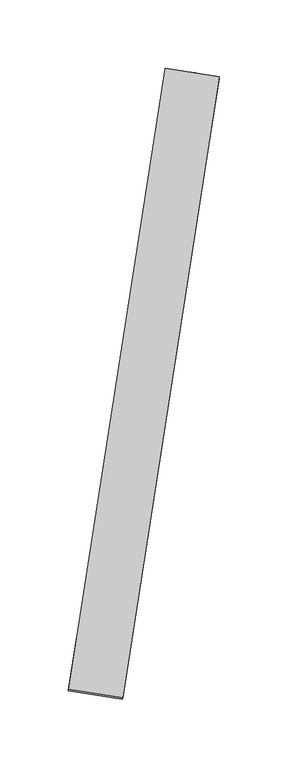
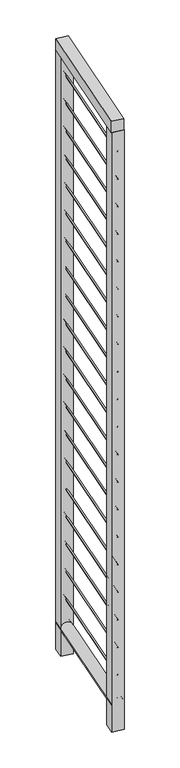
"""IFC4 building model written with IfcOpenShell, lengths in millimetres: railing geometry, Reja acceso."""

from ifc_helpers import new_model, si_unit, point, frame, origin, origin_2d, place, context, project, spatial, polyline, circle_curve, trimmed, segment, composite_curve, outline, extrude, source, transform, mapped, element, save


def railing_81306c8a(model_context):
    return source(origin(), model_context, "Body", "SweptSolid", [
        extrude(outline(polyline([(-42461.7816066, -64352.8523693), (-42501.304379, -64346.6919741), (-42430.4598345, -63892.1800925), (-42390.9370622, -63898.3404877), (-42461.7816066, -64352.8523693)])), frame((0.0, 0.0, 2025.385397), z_axis=(0.0, 0.0, 1.0), x_axis=(1.0, 0.0, 0.0)), (0.0, 0.0, 1.0), 40.0),
        extrude(outline(composite_curve([segment(trimmed(circle_curve(origin_2d(), 2.5), [point((-2.5, 0.0))], [point((2.5, 0.0))], False, "CARTESIAN"), True, "CONTINUOUS"), segment(trimmed(circle_curve(origin_2d(), 2.5), [point((2.5, 0.0))], [point((-2.5, 0.0))], False, "CARTESIAN"), True, "CONTINUOUS")], self_intersect=False)), frame((-42481.5429928, -64349.7721717, 1950.0), z_axis=(0.1540098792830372, 0.9880693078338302, 0.0), x_axis=(0.9880693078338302, -0.1540098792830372, 0.0)), (0.0, 0.0, 1.0), 460.0),
        extrude(outline(composite_curve([segment(trimmed(circle_curve(origin_2d(), 2.5), [point((-2.5, 0.0))], [point((2.5, 0.0))], False, "CARTESIAN"), True, "CONTINUOUS"), segment(trimmed(circle_curve(origin_2d(), 2.5), [point((2.5, 0.0))], [point((-2.5, 0.0))], False, "CARTESIAN"), True, "CONTINUOUS")], self_intersect=False)), frame((-42481.5429928, -64349.7721717, 1850.0), z_axis=(0.1540098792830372, 0.9880693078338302, 0.0), x_axis=(0.9880693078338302, -0.1540098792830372, 0.0)), (0.0, 0.0, 1.0), 460.0),
        extrude(outline(composite_curve([segment(trimmed(circle_curve(origin_2d(), 2.5), [point((-2.5, 0.0))], [point((2.5, 0.0))], False, "CARTESIAN"), True, "CONTINUOUS"), segment(trimmed(circle_curve(origin_2d(), 2.5), [point((2.5, 0.0))], [point((-2.5, 0.0))], False, "CARTESIAN"), True, "CONTINUOUS")], self_intersect=False)), frame((-42481.5429928, -64349.7721717, 1750.0), z_axis=(0.1540098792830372, 0.9880693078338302, 0.0), x_axis=(0.9880693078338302, -0.1540098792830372, 0.0)), (0.0, 0.0, 1.0), 460.0),
        extrude(outline(composite_curve([segment(trimmed(circle_curve(origin_2d(), 2.5), [point((-2.5, 0.0))], [point((2.5, 0.0))], False, "CARTESIAN"), True, "CONTINUOUS"), segment(trimmed(circle_curve(origin_2d(), 2.5), [point((2.5, 0.0))], [point((-2.5, 0.0))], False, "CARTESIAN"), True, "CONTINUOUS")], self_intersect=False)), frame((-42481.5429928, -64349.7721717, 1650.0), z_axis=(0.1540098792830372, 0.9880693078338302, 0.0), x_axis=(0.9880693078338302, -0.1540098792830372, 0.0)), (0.0, 0.0, 1.0), 460.0),
        extrude(outline(composite_curve([segment(trimmed(circle_curve(origin_2d(), 2.5), [point((-2.5, 0.0))], [point((2.5, 0.0))], False, "CARTESIAN"), True, "CONTINUOUS"), segment(trimmed(circle_curve(origin_2d(), 2.5), [point((2.5, 0.0))], [point((-2.5, 0.0))], False, "CARTESIAN"), True, "CONTINUOUS")], self_intersect=False)), frame((-42481.5429928, -64349.7721717, 1550.0), z_axis=(0.1540098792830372, 0.9880693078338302, 0.0), x_axis=(0.9880693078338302, -0.1540098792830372, 0.0)), (0.0, 0.0, 1.0), 460.0),
        extrude(outline(composite_curve([segment(trimmed(circle_curve(origin_2d(), 2.5), [point((-2.5, 0.0))], [point((2.5, 0.0))], False, "CARTESIAN"), True, "CONTINUOUS"), segment(trimmed(circle_curve(origin_2d(), 2.5), [point((2.5, 0.0))], [point((-2.5, 0.0))], False, "CARTESIAN"), True, "CONTINUOUS")], self_intersect=False)), frame((-42481.5429928, -64349.7721717, 1450.0), z_axis=(0.1540098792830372, 0.9880693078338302, 0.0), x_axis=(0.9880693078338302, -0.1540098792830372, 0.0)), (0.0, 0.0, 1.0), 460.0),
        extrude(outline(composite_curve([segment(trimmed(circle_curve(origin_2d(), 2.5), [point((-2.5, 0.0))], [point((2.5, 0.0))], False, "CARTESIAN"), True, "CONTINUOUS"), segment(trimmed(circle_curve(origin_2d(), 2.5), [point((2.5, 0.0))], [point((-2.5, 0.0))], False, "CARTESIAN"), True, "CONTINUOUS")], self_intersect=False)), frame((-42481.5429928, -64349.7721717, 1350.0), z_axis=(0.1540098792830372, 0.9880693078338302, 0.0), x_axis=(0.9880693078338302, -0.1540098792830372, 0.0)), (0.0, 0.0, 1.0), 460.0),
        extrude(outline(composite_curve([segment(trimmed(circle_curve(origin_2d(), 2.5), [point((-2.5, 0.0))], [point((2.5, 0.0))], False, "CARTESIAN"), True, "CONTINUOUS"), segment(trimmed(circle_curve(origin_2d(), 2.5), [point((2.5, 0.0))], [point((-2.5, 0.0))], False, "CARTESIAN"), True, "CONTINUOUS")], self_intersect=False)), frame((-42481.5429928, -64349.7721717, 1250.0), z_axis=(0.1540098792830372, 0.9880693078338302, 0.0), x_axis=(0.9880693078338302, -0.1540098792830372, 0.0)), (0.0, 0.0, 1.0), 460.0),
        extrude(outline(composite_curve([segment(trimmed(circle_curve(origin_2d(), 2.5), [point((-2.5, 0.0))], [point((2.5, 0.0))], False, "CARTESIAN"), True, "CONTINUOUS"), segment(trimmed(circle_curve(origin_2d(), 2.5), [point((2.5, 0.0))], [point((-2.5, 0.0))], False, "CARTESIAN"), True, "CONTINUOUS")], self_intersect=False)), frame((-42481.5429928, -64349.7721717, 1150.0), z_axis=(0.1540098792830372, 0.9880693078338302, 0.0), x_axis=(0.9880693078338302, -0.1540098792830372, 0.0)), (0.0, 0.0, 1.0), 460.0),
        extrude(outline(composite_curve([segment(trimmed(circle_curve(origin_2d(), 2.5), [point((-2.5, 0.0))], [point((2.5, 0.0))], False, "CARTESIAN"), True, "CONTINUOUS"), segment(trimmed(circle_curve(origin_2d(), 2.5), [point((2.5, 0.0))], [point((-2.5, 0.0))], False, "CARTESIAN"), True, "CONTINUOUS")], self_intersect=False)), frame((-42481.5429928, -64349.7721717, 1050.0), z_axis=(0.1540098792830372, 0.9880693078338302, 0.0), x_axis=(0.9880693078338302, -0.1540098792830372, 0.0)), (0.0, 0.0, 1.0), 460.0),
        extrude(outline(composite_curve([segment(trimmed(circle_curve(origin_2d(), 2.5), [point((-2.5, 0.0))], [point((2.5, 0.0))], False, "CARTESIAN"), True, "CONTINUOUS"), segment(trimmed(circle_curve(origin_2d(), 2.5), [point((2.5, 0.0))], [point((-2.5, 0.0))], False, "CARTESIAN"), True, "CONTINUOUS")], self_intersect=False)), frame((-42481.5429928, -64349.7721717, 950.0), z_axis=(0.1540098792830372, 0.9880693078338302, 0.0), x_axis=(0.9880693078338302, -0.1540098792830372, 0.0)), (0.0, 0.0, 1.0), 460.0),
        extrude(outline(composite_curve([segment(trimmed(circle_curve(origin_2d(), 2.5), [point((-2.5, 0.0))], [point((2.5, 0.0))], False, "CARTESIAN"), True, "CONTINUOUS"), segment(trimmed(circle_curve(origin_2d(), 2.5), [point((2.5, 0.0))], [point((-2.5, 0.0))], False, "CARTESIAN"), True, "CONTINUOUS")], self_intersect=False)), frame((-42481.5429928, -64349.7721717, 850.0), z_axis=(0.1540098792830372, 0.9880693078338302, 0.0), x_axis=(0.9880693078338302, -0.1540098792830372, 0.0)), (0.0, 0.0, 1.0), 460.0),
        extrude(outline(composite_curve([segment(trimmed(circle_curve(origin_2d(), 2.5), [point((-2.5, 0.0))], [point((2.5, 0.0))], False, "CARTESIAN"), True, "CONTINUOUS"), segment(trimmed(circle_curve(origin_2d(), 2.5), [point((2.5, 0.0))], [point((-2.5, 0.0))], False, "CARTESIAN"), True, "CONTINUOUS")], self_intersect=False)), frame((-42481.5429928, -64349.7721717, 750.0), z_axis=(0.1540098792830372, 0.9880693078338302, 0.0), x_axis=(0.9880693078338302, -0.1540098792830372, 0.0)), (0.0, 0.0, 1.0), 460.0),
        extrude(outline(composite_curve([segment(trimmed(circle_curve(origin_2d(), 2.5), [point((-2.5, 0.0))], [point((2.5, 0.0))], False, "CARTESIAN"), True, "CONTINUOUS"), segment(trimmed(circle_curve(origin_2d(), 2.5), [point((2.5, 0.0))], [point((-2.5, 0.0))], False, "CARTESIAN"), True, "CONTINUOUS")], self_intersect=False)), frame((-42481.5429928, -64349.7721717, 650.0), z_axis=(0.1540098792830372, 0.9880693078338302, 0.0), x_axis=(0.9880693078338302, -0.1540098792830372, 0.0)), (0.0, 0.0, 1.0), 460.0),
        extrude(outline(composite_curve([segment(trimmed(circle_curve(origin_2d(), 2.5), [point((-2.5, 0.0))], [point((2.5, 0.0))], False, "CARTESIAN"), True, "CONTINUOUS"), segment(trimmed(circle_curve(origin_2d(), 2.5), [point((2.5, 0.0))], [point((-2.5, 0.0))], False, "CARTESIAN"), True, "CONTINUOUS")], self_intersect=False)), frame((-42481.5429928, -64349.7721717, 550.0), z_axis=(0.1540098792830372, 0.9880693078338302, 0.0), x_axis=(0.9880693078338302, -0.1540098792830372, 0.0)), (0.0, 0.0, 1.0), 460.0),
        extrude(outline(composite_curve([segment(trimmed(circle_curve(origin_2d(), 2.5), [point((-2.5, 0.0))], [point((2.5, 0.0))], False, "CARTESIAN"), True, "CONTINUOUS"), segment(trimmed(circle_curve(origin_2d(), 2.5), [point((2.5, 0.0))], [point((-2.5, 0.0))], False, "CARTESIAN"), True, "CONTINUOUS")], self_intersect=False)), frame((-42481.5429928, -64349.7721717, 450.0), z_axis=(0.1540098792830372, 0.9880693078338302, 0.0), x_axis=(0.9880693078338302, -0.1540098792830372, 0.0)), (0.0, 0.0, 1.0), 460.0),
        extrude(outline(composite_curve([segment(trimmed(circle_curve(origin_2d(), 2.5), [point((-2.5, 0.0))], [point((2.5, 0.0))], False, "CARTESIAN"), True, "CONTINUOUS"), segment(trimmed(circle_curve(origin_2d(), 2.5), [point((2.5, 0.0))], [point((-2.5, 0.0))], False, "CARTESIAN"), True, "CONTINUOUS")], self_intersect=False)), frame((-42481.5429928, -64349.7721717, 350.0), z_axis=(0.1540098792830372, 0.9880693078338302, 0.0), x_axis=(0.9880693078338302, -0.1540098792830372, 0.0)), (0.0, 0.0, 1.0), 460.0),
        extrude(outline(composite_curve([segment(trimmed(circle_curve(origin_2d(), 2.5), [point((-2.5, 0.0))], [point((2.5, 0.0))], False, "CARTESIAN"), True, "CONTINUOUS"), segment(trimmed(circle_curve(origin_2d(), 2.5), [point((2.5, 0.0))], [point((-2.5, 0.0))], False, "CARTESIAN"), True, "CONTINUOUS")], self_intersect=False)), frame((-42481.5429928, -64349.7721717, 250.0), z_axis=(0.1540098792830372, 0.9880693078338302, 0.0), x_axis=(0.9880693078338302, -0.1540098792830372, 0.0)), (0.0, 0.0, 1.0), 460.0),
        extrude(outline(composite_curve([segment(trimmed(circle_curve(origin_2d(), 2.5), [point((-2.5, 0.0))], [point((2.5, 0.0))], False, "CARTESIAN"), True, "CONTINUOUS"), segment(trimmed(circle_curve(origin_2d(), 2.5), [point((2.5, 0.0))], [point((-2.5, 0.0))], False, "CARTESIAN"), True, "CONTINUOUS")], self_intersect=False)), frame((-42481.5429928, -64349.7721717, 150.0), z_axis=(0.1540098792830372, 0.9880693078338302, 0.0), x_axis=(0.9880693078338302, -0.1540098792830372, 0.0)), (0.0, 0.0, 1.0), 460.0),
        extrude(outline(composite_curve([segment(trimmed(circle_curve(origin_2d(), 2.5), [point((-2.5, 0.0))], [point((2.5, 0.0))], False, "CARTESIAN"), True, "CONTINUOUS"), segment(trimmed(circle_curve(origin_2d(), 2.5), [point((2.5, 0.0))], [point((-2.5, 0.0))], False, "CARTESIAN"), True, "CONTINUOUS")], self_intersect=False)), frame((-42481.5429928, -64349.7721717, 50.0), z_axis=(0.1540098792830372, 0.9880693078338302, 0.0), x_axis=(0.9880693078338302, -0.1540098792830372, 0.0)), (0.0, 0.0, 1.0), 460.0),
        extrude(outline(composite_curve([segment(trimmed(circle_curve(origin_2d(), 20.0), [point((-20.0, 0.0))], [point((20.0, 0.0))], False, "CARTESIAN"), True, "CONTINUOUS"), segment(trimmed(circle_curve(origin_2d(), 20.0), [point((20.0, 0.0))], [point((-20.0, 0.0))], False, "CARTESIAN"), True, "CONTINUOUS")], self_intersect=False)), frame((-42481.5429928, -64349.7721717, -50.0), z_axis=(0.1540098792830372, 0.9880693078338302, 0.0), x_axis=(0.9880693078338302, -0.1540098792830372, 0.0)), (0.0, 0.0, 1.0), 460.0),
        extrude(outline(polyline([(-42436.7715937, -63932.6739595), (-42430.6111985, -63893.1511872), (-42391.0884262, -63899.3115823), (-42397.2488214, -63938.8343546), (-42436.7715937, -63932.6739595)])), frame((0.0, 0.0, -150.0), z_axis=(0.0, 0.0, 1.0), x_axis=(1.0, 0.0, 0.0)), (0.0, 0.0, 1.0), 2175.385397),
        extrude(outline(polyline([(-42501.455743, -64347.6630688), (-42495.2953478, -64308.1402964), (-42455.7725755, -64314.3006916), (-42461.9329707, -64353.8234639), (-42501.455743, -64347.6630688)])), frame((0.0, 0.0, -150.0), z_axis=(0.0, 0.0, 1.0), x_axis=(1.0, 0.0, 0.0)), (0.0, 0.0, 1.0), 2175.385397),
    ])


if __name__ == "__main__":
    model = new_model("IFC4")
    model_context = context("Model", 3, world=origin())
    ifc_project = project(units=[si_unit("LENGTHUNIT", "METRE", prefix="MILLI")], contexts=[model_context])
    site = spatial("IfcSite", under=ifc_project)
    building = spatial("IfcBuilding", under=site)
    placement = place(None, origin())
    railing_shape = railing_81306c8a(model_context)
    element("IfcRailing", 1, ObjectType="Reja acceso", at=placement, inside=building, context=model_context, shape_type="MappedRepresentation", body=[
        mapped(railing_shape, transform((0.0, 0.0, 0.0), x_axis=(1.0, 0.0, 0.0), y_axis=(0.0, 1.0, 0.0), z_axis=(0.0, 0.0, 1.0))),
    ])
    save(model, "model.ifc")
